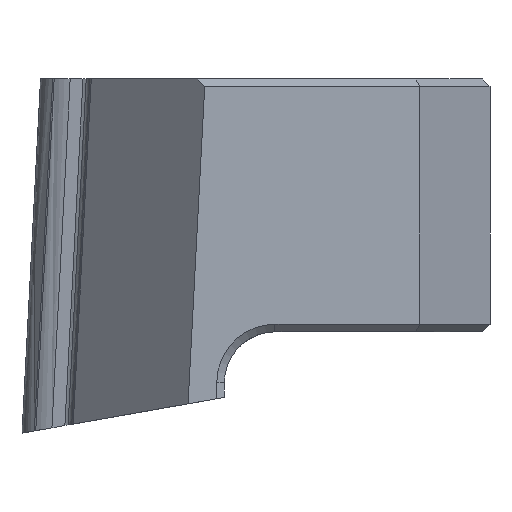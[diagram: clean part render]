
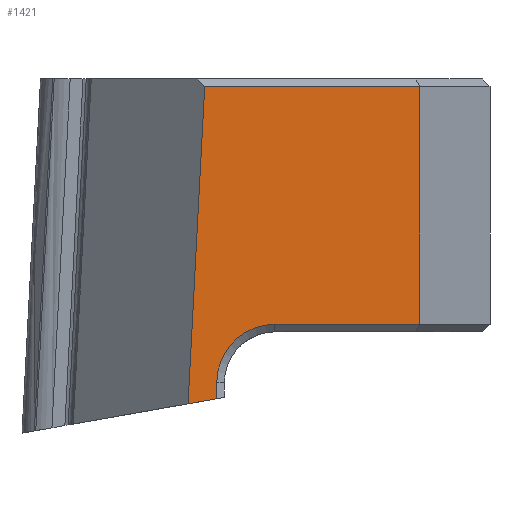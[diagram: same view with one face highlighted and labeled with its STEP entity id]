
A CAD part, left-side view. The second image highlights one B-rep face of the part: STEP entity #1421.
In plain terms, the highlighted planar face has unit normal (-1, 0, 0).
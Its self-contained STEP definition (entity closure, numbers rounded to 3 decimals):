
#25 = CARTESIAN_POINT ( 'NONE',  ( -6.55, -10., 4.3 ) ) ;
#41 = VERTEX_POINT ( 'NONE', #1617 ) ;
#51 = ORIENTED_EDGE ( 'NONE', *, *, #185, .T. ) ;
#107 = DIRECTION ( 'NONE',  ( 0., 0., -1. ) ) ;
#146 = VERTEX_POINT ( 'NONE', #942 ) ;
#163 = CARTESIAN_POINT ( 'NONE',  ( -6.55, -7.7, 14. ) ) ;
#175 = CARTESIAN_POINT ( 'NONE',  ( -6.55, -15.732, 14. ) ) ;
#184 = CARTESIAN_POINT ( 'NONE',  ( -6.55, -7.261, 14.444 ) ) ;
#185 = EDGE_CURVE ( 'NONE', #196, #146, #1244, .T. ) ;
#196 = VERTEX_POINT ( 'NONE', #25 ) ;
#224 = LINE ( 'NONE', #1437, #1050 ) ;
#287 = PLANE ( 'NONE',  #1252 ) ;
#413 = ORIENTED_EDGE ( 'NONE', *, *, #1319, .T. ) ;
#416 = DIRECTION ( 'NONE',  ( 0., 0., -1. ) ) ;
#437 = EDGE_CURVE ( 'NONE', #462, #1673, #224, .T. ) ;
#462 = VERTEX_POINT ( 'NONE', #1027 ) ;
#538 = EDGE_LOOP ( 'NONE', ( #1250, #1294, #413, #1481, #1636, #1049, #51 ) ) ;
#650 = DIRECTION ( 'NONE',  ( 1., 0., 0. ) ) ;
#659 = DIRECTION ( 'NONE',  ( 0., 1., 0. ) ) ;
#708 = LINE ( 'NONE', #163, #1571 ) ;
#729 = LINE ( 'NONE', #184, #1245 ) ;
#793 = CIRCLE ( 'NONE', #1446, 2.3 ) ;
#827 = FACE_OUTER_BOUND ( 'NONE', #538, .T. ) ;
#842 = EDGE_CURVE ( 'NONE', #41, #1350, #1739, .T. ) ;
#848 = CARTESIAN_POINT ( 'NONE',  ( -6.55, -7.222, 13.7 ) ) ;
#860 = VERTEX_POINT ( 'NONE', #1450 ) ;
#900 = DIRECTION ( 'NONE',  ( 0., -0.985, 0.174 ) ) ;
#942 = CARTESIAN_POINT ( 'NONE',  ( -6.55, -15.732, 4.3 ) ) ;
#957 = DIRECTION ( 'NONE',  ( 1., 0., 0. ) ) ;
#958 = VECTOR ( 'NONE', #1682, 1000. ) ;
#989 = VECTOR ( 'NONE', #1388, 1000. ) ;
#1027 = CARTESIAN_POINT ( 'NONE',  ( -6.55, -6.565, 1.158 ) ) ;
#1049 = ORIENTED_EDGE ( 'NONE', *, *, #1556, .T. ) ;
#1050 = VECTOR ( 'NONE', #900, 1000. ) ;
#1123 = LINE ( 'NONE', #175, #989 ) ;
#1196 = CARTESIAN_POINT ( 'NONE',  ( -6.55, -15.732, 13.7 ) ) ;
#1244 = LINE ( 'NONE', #1469, #958 ) ;
#1245 = VECTOR ( 'NONE', #1398, 1000. ) ;
#1250 = ORIENTED_EDGE ( 'NONE', *, *, #1349, .F. ) ;
#1252 = AXIS2_PLACEMENT_3D ( 'NONE', #1502, #957, #416 ) ;
#1294 = ORIENTED_EDGE ( 'NONE', *, *, #842, .T. ) ;
#1319 = EDGE_CURVE ( 'NONE', #1350, #462, #729, .T. ) ;
#1349 = EDGE_CURVE ( 'NONE', #41, #146, #1123, .T. ) ;
#1350 = VERTEX_POINT ( 'NONE', #848 ) ;
#1352 = VECTOR ( 'NONE', #659, 1000. ) ;
#1372 = EDGE_CURVE ( 'NONE', #1673, #860, #708, .T. ) ;
#1378 = DIRECTION ( 'NONE',  ( 0., 0., 1. ) ) ;
#1388 = DIRECTION ( 'NONE',  ( 0., 0., -1. ) ) ;
#1398 = DIRECTION ( 'NONE',  ( 0., 0.052, -0.999 ) ) ;
#1410 = CARTESIAN_POINT ( 'NONE',  ( -6.55, -7.7, 1.358 ) ) ;
#1421 = ADVANCED_FACE ( 'NONE', ( #827 ), #287, .F. ) ;
#1437 = CARTESIAN_POINT ( 'NONE',  ( -6.55, 0., 0. ) ) ;
#1446 = AXIS2_PLACEMENT_3D ( 'NONE', #1597, #650, #107 ) ;
#1450 = CARTESIAN_POINT ( 'NONE',  ( -6.55, -7.7, 2. ) ) ;
#1469 = CARTESIAN_POINT ( 'NONE',  ( -6.55, -15.732, 4.3 ) ) ;
#1481 = ORIENTED_EDGE ( 'NONE', *, *, #437, .T. ) ;
#1502 = CARTESIAN_POINT ( 'NONE',  ( -6.55, -15.732, 14. ) ) ;
#1556 = EDGE_CURVE ( 'NONE', #860, #196, #793, .T. ) ;
#1571 = VECTOR ( 'NONE', #1378, 1000. ) ;
#1597 = CARTESIAN_POINT ( 'NONE',  ( -6.55, -10., 2. ) ) ;
#1617 = CARTESIAN_POINT ( 'NONE',  ( -6.55, -15.732, 13.7 ) ) ;
#1636 = ORIENTED_EDGE ( 'NONE', *, *, #1372, .T. ) ;
#1673 = VERTEX_POINT ( 'NONE', #1410 ) ;
#1682 = DIRECTION ( 'NONE',  ( 0., -1., 0. ) ) ;
#1739 = LINE ( 'NONE', #1196, #1352 ) ;
